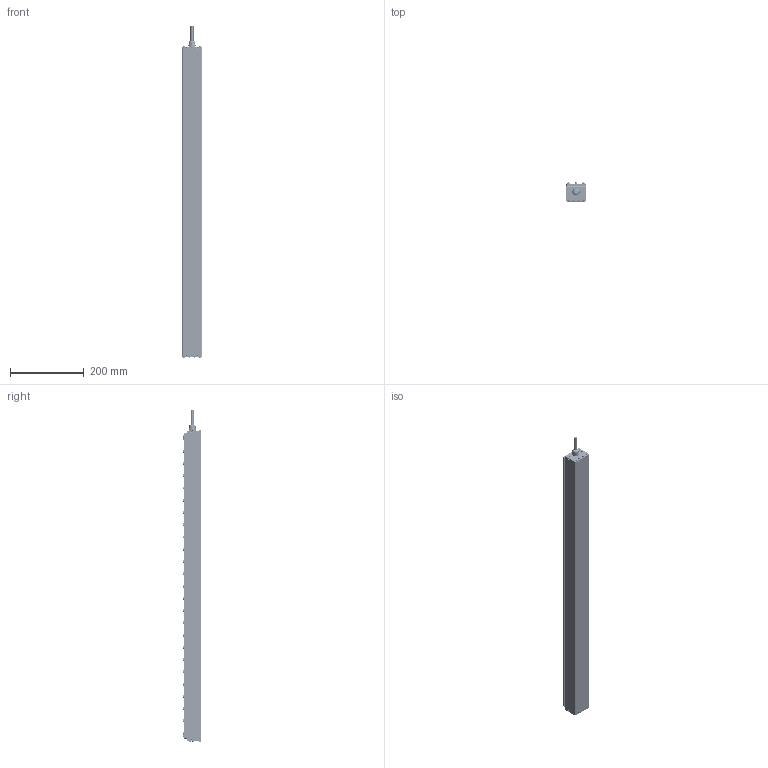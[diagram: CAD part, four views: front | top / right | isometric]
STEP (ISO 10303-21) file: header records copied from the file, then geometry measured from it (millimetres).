
FILE_DESCRIPTION (( 'STEP AP214' ), '1' );
FILE_NAME ('EFFI-FLEX-IP69K-FOOD-40.STEP', '2021-06-02T08:42:49', ( '' ), ( '' ), 'SwSTEP 2.0', 'SolidWorks 2021', '' );
FILE_SCHEMA (( 'AUTOMOTIVE_DESIGN' ));
Length unit declared in the file: millimetre
Products named in the file (6): 014537; EFFI-FLEX-IP69K-FOOD-40; 004327; 001477; 004326_M5X16; effiflex IP69k food sans vis
Assembly tree (122 placements, depth 2):
  EFFI-FLEX-IP69K-FOOD-40
    effiflex IP69k food sans vis
    004326_M5X16  x52
    004327  x52
    001477  x16
    014537
Bounding box: 54 x 50.7 x 902.95 mm (x, y, z)
Volume: 2151610.4 mm3; surface area: 397319.9 mm2
Topology: 130 solids, 130 shells, 5450 faces, 14275 edges, 9160 vertices
Faces by surface type: cylinder 3510, plane 1021, cone 610, bspline 261, torus 48
Entity records: 35149 total; most frequent: CARTESIAN_POINT 13345, DIRECTION 4127, ORIENTED_EDGE 3622, EDGE_CURVE 1811, AXIS2_PLACEMENT_3D 1682, VERTEX_POINT 1177, EDGE_LOOP 1010, CIRCLE 796
